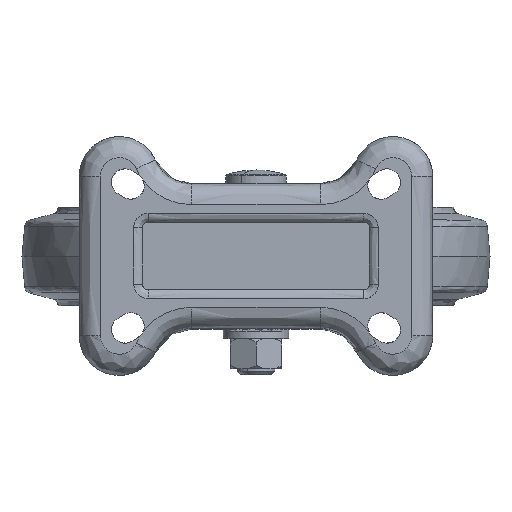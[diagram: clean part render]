
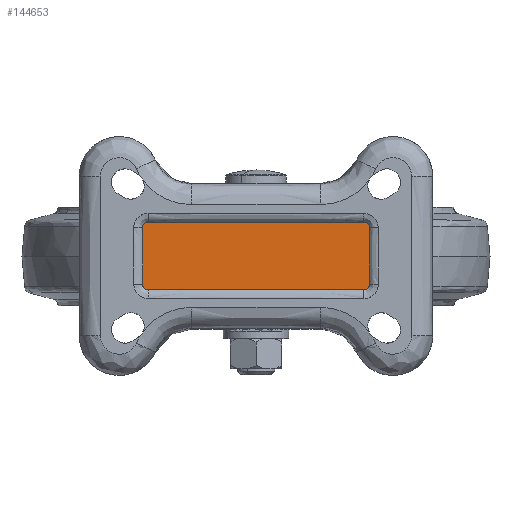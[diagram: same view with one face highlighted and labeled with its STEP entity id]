
A CAD part, top view. The second image highlights one B-rep face of the part: STEP entity #144653.
In plain terms, the highlighted planar face has unit normal (0, 0, 1).
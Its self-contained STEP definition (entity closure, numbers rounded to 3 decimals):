
#24003 = LINE ( 'NONE', #280408, #24006 ) ;
#24006 = VECTOR ( 'NONE', #280407, 1000. ) ;
#24010 = LINE ( 'NONE', #280406, #24017 ) ;
#24015 = LINE ( 'NONE', #280383, #24030 ) ;
#24017 = VECTOR ( 'NONE', #280403, 1000. ) ;
#24028 = VECTOR ( 'NONE', #280374, 1000. ) ;
#24030 = VECTOR ( 'NONE', #280382, 1000. ) ;
#24032 = LINE ( 'NONE', #280375, #24028 ) ;
#35472 = VERTEX_POINT ( 'NONE', #295432 ) ;
#35480 = VERTEX_POINT ( 'NONE', #295427 ) ;
#35488 = VERTEX_POINT ( 'NONE', #295422 ) ;
#35510 = VERTEX_POINT ( 'NONE', #295402 ) ;
#35526 = VERTEX_POINT ( 'NONE', #295392 ) ;
#35530 = VERTEX_POINT ( 'NONE', #295389 ) ;
#35534 = VERTEX_POINT ( 'NONE', #295387 ) ;
#35541 = VERTEX_POINT ( 'NONE', #295382 ) ;
#102182 = B_SPLINE_CURVE_WITH_KNOTS ( 'NONE', 3,
 ( #280390, #280372, #280371, #280370, #280369, #280368, #280367 ),
 .UNSPECIFIED., .F., .F.,
 ( 4, 3, 4 ),
 ( 0., 0.002, 0.004 ),
 .UNSPECIFIED. ) ;
#102186 = B_SPLINE_CURVE_WITH_KNOTS ( 'NONE', 3,
 ( #280397, #280381, #280380, #280379, #280378, #280377, #280376 ),
 .UNSPECIFIED., .F., .F.,
 ( 4, 3, 4 ),
 ( 0., 0.002, 0.004 ),
 .UNSPECIFIED. ) ;
#102191 = B_SPLINE_CURVE_WITH_KNOTS ( 'NONE', 3,
 ( #280399, #280389, #280388, #280387, #280386, #280385, #280384 ),
 .UNSPECIFIED., .F., .F.,
 ( 4, 3, 4 ),
 ( 0., 0.002, 0.004 ),
 .UNSPECIFIED. ) ;
#102194 = B_SPLINE_CURVE_WITH_KNOTS ( 'NONE', 3,
 ( #280402, #280396, #280395, #280394, #280393, #280392, #280391 ),
 .UNSPECIFIED., .F., .F.,
 ( 4, 3, 4 ),
 ( 0., 0.002, 0.004 ),
 .UNSPECIFIED. ) ;
#124395 = EDGE_CURVE ( 'NONE', #35472, #35480, #24003, .T. ) ;
#124400 = EDGE_CURVE ( 'NONE', #35510, #35526, #24010, .T. ) ;
#124407 = EDGE_CURVE ( 'NONE', #35541, #35526, #102194, .T. ) ;
#124410 = EDGE_CURVE ( 'NONE', #35472, #35488, #102191, .T. ) ;
#124412 = EDGE_CURVE ( 'NONE', #35530, #35488, #24015, .T. ) ;
#124414 = EDGE_CURVE ( 'NONE', #35510, #35480, #102186, .T. ) ;
#124417 = EDGE_CURVE ( 'NONE', #35541, #35534, #24032, .T. ) ;
#124419 = EDGE_CURVE ( 'NONE', #35530, #35534, #102182, .T. ) ;
#134044 = CARTESIAN_POINT ( 'NONE',  ( -48.5, 14.5, -2. ) ) ;
#136704 = DIRECTION ( 'NONE',  ( 1., 0., 0. ) ) ;
#136707 = DIRECTION ( 'NONE',  ( 0., 0., 1. ) ) ;
#136741 = PLANE ( 'NONE',  #178005 ) ;
#144653 = ADVANCED_FACE ( 'NONE', ( #185081 ), #136741, .T. ) ;
#178005 = AXIS2_PLACEMENT_3D ( 'NONE', #134044, #136707, #136704 ) ;
#185081 = FACE_OUTER_BOUND ( 'NONE', #226789, .T. ) ;
#226789 = EDGE_LOOP ( 'NONE', ( #291534, #291537, #291540, #291545, #291548, #291551, #291554, #291557 ) ) ;
#280367 = CARTESIAN_POINT ( 'NONE',  ( 46., -14.5, -2. ) ) ;
#280368 = CARTESIAN_POINT ( 'NONE',  ( 46.658, -14.5, -2. ) ) ;
#280369 = CARTESIAN_POINT ( 'NONE',  ( 47.306, -14.229, -2. ) ) ;
#280370 = CARTESIAN_POINT ( 'NONE',  ( 47.768, -13.768, -2. ) ) ;
#280371 = CARTESIAN_POINT ( 'NONE',  ( 48.229, -13.306, -2. ) ) ;
#280372 = CARTESIAN_POINT ( 'NONE',  ( 48.5, -12.658, -2. ) ) ;
#280374 = DIRECTION ( 'NONE',  ( 1., 0., 0. ) ) ;
#280375 = CARTESIAN_POINT ( 'NONE',  ( 0., -14.5, -2. ) ) ;
#280376 = CARTESIAN_POINT ( 'NONE',  ( -46., 14.5, -2. ) ) ;
#280377 = CARTESIAN_POINT ( 'NONE',  ( -46.658, 14.5, -2. ) ) ;
#280378 = CARTESIAN_POINT ( 'NONE',  ( -47.306, 14.229, -2. ) ) ;
#280379 = CARTESIAN_POINT ( 'NONE',  ( -47.768, 13.768, -2. ) ) ;
#280380 = CARTESIAN_POINT ( 'NONE',  ( -48.229, 13.306, -2. ) ) ;
#280381 = CARTESIAN_POINT ( 'NONE',  ( -48.5, 12.658, -2. ) ) ;
#280382 = DIRECTION ( 'NONE',  ( 0., 1., 0. ) ) ;
#280383 = CARTESIAN_POINT ( 'NONE',  ( 48.5, 0., -2. ) ) ;
#280384 = CARTESIAN_POINT ( 'NONE',  ( 48.5, 12., -2. ) ) ;
#280385 = CARTESIAN_POINT ( 'NONE',  ( 48.5, 12.658, -2. ) ) ;
#280386 = CARTESIAN_POINT ( 'NONE',  ( 48.229, 13.306, -2. ) ) ;
#280387 = CARTESIAN_POINT ( 'NONE',  ( 47.768, 13.768, -2. ) ) ;
#280388 = CARTESIAN_POINT ( 'NONE',  ( 47.306, 14.229, -2. ) ) ;
#280389 = CARTESIAN_POINT ( 'NONE',  ( 46.658, 14.5, -2. ) ) ;
#280390 = CARTESIAN_POINT ( 'NONE',  ( 48.5, -12., -2. ) ) ;
#280391 = CARTESIAN_POINT ( 'NONE',  ( -48.5, -12., -2. ) ) ;
#280392 = CARTESIAN_POINT ( 'NONE',  ( -48.5, -12.658, -2. ) ) ;
#280393 = CARTESIAN_POINT ( 'NONE',  ( -48.229, -13.306, -2. ) ) ;
#280394 = CARTESIAN_POINT ( 'NONE',  ( -47.768, -13.768, -2. ) ) ;
#280395 = CARTESIAN_POINT ( 'NONE',  ( -47.306, -14.229, -2. ) ) ;
#280396 = CARTESIAN_POINT ( 'NONE',  ( -46.658, -14.5, -2. ) ) ;
#280397 = CARTESIAN_POINT ( 'NONE',  ( -48.5, 12., -2. ) ) ;
#280399 = CARTESIAN_POINT ( 'NONE',  ( 46., 14.5, -2. ) ) ;
#280402 = CARTESIAN_POINT ( 'NONE',  ( -46., -14.5, -2. ) ) ;
#280403 = DIRECTION ( 'NONE',  ( 0., -1., 0. ) ) ;
#280406 = CARTESIAN_POINT ( 'NONE',  ( -48.5, 0., -2. ) ) ;
#280407 = DIRECTION ( 'NONE',  ( -1., 0., 0. ) ) ;
#280408 = CARTESIAN_POINT ( 'NONE',  ( 0., 14.5, -2. ) ) ;
#291534 = ORIENTED_EDGE ( 'NONE', *, *, #124412, .T. ) ;
#291537 = ORIENTED_EDGE ( 'NONE', *, *, #124410, .F. ) ;
#291540 = ORIENTED_EDGE ( 'NONE', *, *, #124395, .T. ) ;
#291545 = ORIENTED_EDGE ( 'NONE', *, *, #124414, .F. ) ;
#291548 = ORIENTED_EDGE ( 'NONE', *, *, #124400, .T. ) ;
#291551 = ORIENTED_EDGE ( 'NONE', *, *, #124407, .F. ) ;
#291554 = ORIENTED_EDGE ( 'NONE', *, *, #124417, .T. ) ;
#291557 = ORIENTED_EDGE ( 'NONE', *, *, #124419, .F. ) ;
#295382 = CARTESIAN_POINT ( 'NONE',  ( -46., -14.5, -2. ) ) ;
#295387 = CARTESIAN_POINT ( 'NONE',  ( 46., -14.5, -2. ) ) ;
#295389 = CARTESIAN_POINT ( 'NONE',  ( 48.5, -12., -2. ) ) ;
#295392 = CARTESIAN_POINT ( 'NONE',  ( -48.5, -12., -2. ) ) ;
#295402 = CARTESIAN_POINT ( 'NONE',  ( -48.5, 12., -2. ) ) ;
#295422 = CARTESIAN_POINT ( 'NONE',  ( 48.5, 12., -2. ) ) ;
#295427 = CARTESIAN_POINT ( 'NONE',  ( -46., 14.5, -2. ) ) ;
#295432 = CARTESIAN_POINT ( 'NONE',  ( 46., 14.5, -2. ) ) ;
